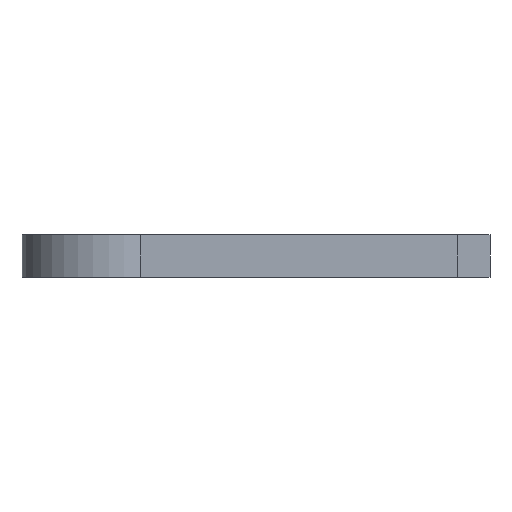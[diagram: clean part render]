
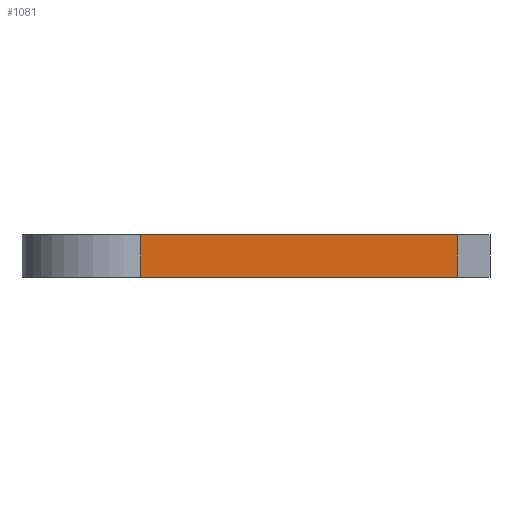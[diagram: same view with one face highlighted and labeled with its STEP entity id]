
A CAD part, front view. The second image highlights one B-rep face of the part: STEP entity #1081.
In plain terms, the highlighted planar face has unit normal (0, -1, 0).
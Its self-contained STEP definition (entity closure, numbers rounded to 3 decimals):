
#42 = VERTEX_POINT('',#43);
#43 = CARTESIAN_POINT('',(-72.2,-85.5,9.6));
#50 = PLANE('',#51);
#51 = AXIS2_PLACEMENT_3D('',#52,#53,#54);
#52 = CARTESIAN_POINT('',(-72.2,-100.,4.8));
#53 = DIRECTION('',(1.,0.,0.));
#54 = DIRECTION('',(0.,0.,1.));
#62 = PLANE('',#63);
#63 = AXIS2_PLACEMENT_3D('',#64,#65,#66);
#64 = CARTESIAN_POINT('',(-72.2,-100.,9.6));
#65 = DIRECTION('',(0.,0.,1.));
#66 = DIRECTION('',(1.,0.,-0.));
#272 = VERTEX_POINT('',#273);
#273 = CARTESIAN_POINT('',(-72.2,-85.5,57.292));
#288 = CYLINDRICAL_SURFACE('',#289,14.);
#289 = AXIS2_PLACEMENT_3D('',#290,#291,#292);
#290 = CARTESIAN_POINT('',(-72.2,-72.,61.));
#291 = DIRECTION('',(1.,0.,0.));
#292 = DIRECTION('',(0.,0.,-1.));
#300 = EDGE_CURVE('',#42,#272,#301,.T.);
#301 = SURFACE_CURVE('',#302,(#306,#313),.PCURVE_S1.);
#302 = LINE('',#303,#304);
#303 = CARTESIAN_POINT('',(-72.2,-85.5,9.6));
#304 = VECTOR('',#305,1.);
#305 = DIRECTION('',(0.,0.,1.));
#306 = PCURVE('',#50,#307);
#307 = DEFINITIONAL_REPRESENTATION('',(#308),#312);
#308 = LINE('',#309,#310);
#309 = CARTESIAN_POINT('',(4.8,-14.5));
#310 = VECTOR('',#311,1.);
#311 = DIRECTION('',(1.,0.));
#312 = ( GEOMETRIC_REPRESENTATION_CONTEXT(2) 
PARAMETRIC_REPRESENTATION_CONTEXT() REPRESENTATION_CONTEXT('2D SPACE',''
  ) );
#313 = PCURVE('',#314,#319);
#314 = PLANE('',#315);
#315 = AXIS2_PLACEMENT_3D('',#316,#317,#318);
#316 = CARTESIAN_POINT('',(-72.2,-85.5,9.6));
#317 = DIRECTION('',(0.,1.,0.));
#318 = DIRECTION('',(0.,-0.,1.));
#319 = DEFINITIONAL_REPRESENTATION('',(#320),#324);
#320 = LINE('',#321,#322);
#321 = CARTESIAN_POINT('',(0.,0.));
#322 = VECTOR('',#323,1.);
#323 = DIRECTION('',(1.,0.));
#324 = ( GEOMETRIC_REPRESENTATION_CONTEXT(2) 
PARAMETRIC_REPRESENTATION_CONTEXT() REPRESENTATION_CONTEXT('2D SPACE',''
  ) );
#530 = VERTEX_POINT('',#531);
#531 = CARTESIAN_POINT('',(-65.8,-85.5,9.6));
#545 = PLANE('',#546);
#546 = AXIS2_PLACEMENT_3D('',#547,#548,#549);
#547 = CARTESIAN_POINT('',(-65.8,-100.,4.8));
#548 = DIRECTION('',(1.,0.,0.));
#549 = DIRECTION('',(0.,0.,1.));
#557 = EDGE_CURVE('',#42,#530,#558,.T.);
#558 = SURFACE_CURVE('',#559,(#563,#570),.PCURVE_S1.);
#559 = LINE('',#560,#561);
#560 = CARTESIAN_POINT('',(-72.2,-85.5,9.6));
#561 = VECTOR('',#562,1.);
#562 = DIRECTION('',(1.,0.,0.));
#563 = PCURVE('',#62,#564);
#564 = DEFINITIONAL_REPRESENTATION('',(#565),#569);
#565 = LINE('',#566,#567);
#566 = CARTESIAN_POINT('',(0.,14.5));
#567 = VECTOR('',#568,1.);
#568 = DIRECTION('',(1.,0.));
#569 = ( GEOMETRIC_REPRESENTATION_CONTEXT(2) 
PARAMETRIC_REPRESENTATION_CONTEXT() REPRESENTATION_CONTEXT('2D SPACE',''
  ) );
#570 = PCURVE('',#314,#571);
#571 = DEFINITIONAL_REPRESENTATION('',(#572),#576);
#572 = LINE('',#573,#574);
#573 = CARTESIAN_POINT('',(0.,0.));
#574 = VECTOR('',#575,1.);
#575 = DIRECTION('',(0.,1.));
#576 = ( GEOMETRIC_REPRESENTATION_CONTEXT(2) 
PARAMETRIC_REPRESENTATION_CONTEXT() REPRESENTATION_CONTEXT('2D SPACE',''
  ) );
#1037 = VERTEX_POINT('',#1038);
#1038 = CARTESIAN_POINT('',(-65.8,-85.5,57.292));
#1062 = EDGE_CURVE('',#272,#1037,#1063,.T.);
#1063 = SURFACE_CURVE('',#1064,(#1068,#1074),.PCURVE_S1.);
#1064 = LINE('',#1065,#1066);
#1065 = CARTESIAN_POINT('',(-72.2,-85.5,57.292));
#1066 = VECTOR('',#1067,1.);
#1067 = DIRECTION('',(1.,0.,0.));
#1068 = PCURVE('',#288,#1069);
#1069 = DEFINITIONAL_REPRESENTATION('',(#1070),#1073);
#1070 = B_SPLINE_CURVE_WITH_KNOTS('',1,(#1071,#1072),.UNSPECIFIED.,.F.,
  .F.,(2,2),(0.,6.4),.PIECEWISE_BEZIER_KNOTS.);
#1071 = CARTESIAN_POINT('',(4.98,0.));
#1072 = CARTESIAN_POINT('',(4.98,6.4));
#1073 = ( GEOMETRIC_REPRESENTATION_CONTEXT(2) 
PARAMETRIC_REPRESENTATION_CONTEXT() REPRESENTATION_CONTEXT('2D SPACE',''
  ) );
#1074 = PCURVE('',#314,#1075);
#1075 = DEFINITIONAL_REPRESENTATION('',(#1076),#1080);
#1076 = LINE('',#1077,#1078);
#1077 = CARTESIAN_POINT('',(47.692,0.));
#1078 = VECTOR('',#1079,1.);
#1079 = DIRECTION('',(0.,1.));
#1080 = ( GEOMETRIC_REPRESENTATION_CONTEXT(2) 
PARAMETRIC_REPRESENTATION_CONTEXT() REPRESENTATION_CONTEXT('2D SPACE',''
  ) );
#1081 = ADVANCED_FACE('',(#1082),#314,.F.);
#1082 = FACE_BOUND('',#1083,.F.);
#1083 = EDGE_LOOP('',(#1084,#1105,#1106,#1107));
#1084 = ORIENTED_EDGE('',*,*,#1085,.F.);
#1085 = EDGE_CURVE('',#530,#1037,#1086,.T.);
#1086 = SURFACE_CURVE('',#1087,(#1091,#1098),.PCURVE_S1.);
#1087 = LINE('',#1088,#1089);
#1088 = CARTESIAN_POINT('',(-65.8,-85.5,9.6));
#1089 = VECTOR('',#1090,1.);
#1090 = DIRECTION('',(0.,0.,1.));
#1091 = PCURVE('',#314,#1092);
#1092 = DEFINITIONAL_REPRESENTATION('',(#1093),#1097);
#1093 = LINE('',#1094,#1095);
#1094 = CARTESIAN_POINT('',(0.,6.4));
#1095 = VECTOR('',#1096,1.);
#1096 = DIRECTION('',(1.,0.));
#1097 = ( GEOMETRIC_REPRESENTATION_CONTEXT(2) 
PARAMETRIC_REPRESENTATION_CONTEXT() REPRESENTATION_CONTEXT('2D SPACE',''
  ) );
#1098 = PCURVE('',#545,#1099);
#1099 = DEFINITIONAL_REPRESENTATION('',(#1100),#1104);
#1100 = LINE('',#1101,#1102);
#1101 = CARTESIAN_POINT('',(4.8,-14.5));
#1102 = VECTOR('',#1103,1.);
#1103 = DIRECTION('',(1.,0.));
#1104 = ( GEOMETRIC_REPRESENTATION_CONTEXT(2) 
PARAMETRIC_REPRESENTATION_CONTEXT() REPRESENTATION_CONTEXT('2D SPACE',''
  ) );
#1105 = ORIENTED_EDGE('',*,*,#557,.F.);
#1106 = ORIENTED_EDGE('',*,*,#300,.T.);
#1107 = ORIENTED_EDGE('',*,*,#1062,.T.);
